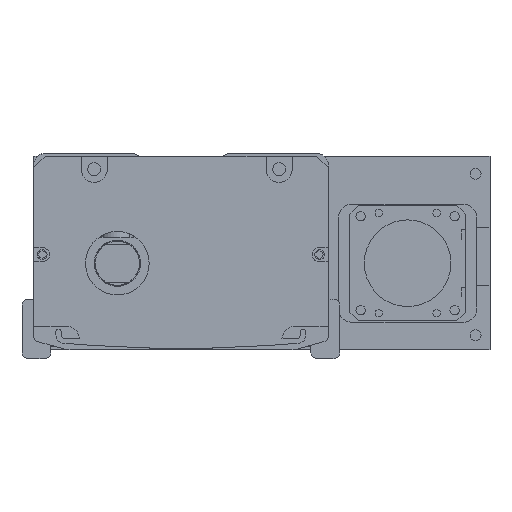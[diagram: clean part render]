
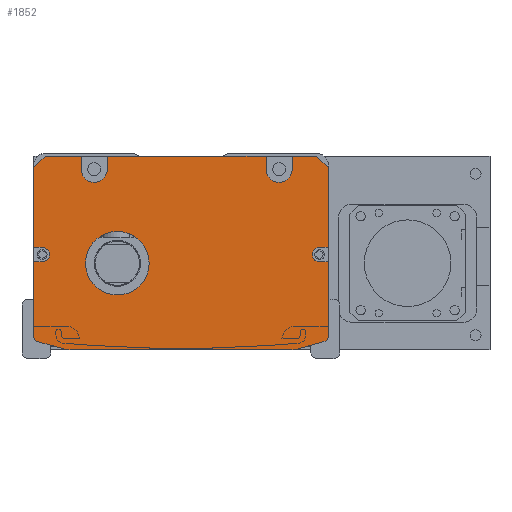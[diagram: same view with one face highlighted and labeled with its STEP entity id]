
A CAD part, front view. The second image highlights one B-rep face of the part: STEP entity #1852.
In plain terms, the highlighted planar face has unit normal (0, -1, 0).
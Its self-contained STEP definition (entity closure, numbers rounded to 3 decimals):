
#1852=ADVANCED_FACE('',(#4440,#4441),#2411,.F.);
#2411=PLANE('',#14145);
#2952=LINE('',#27134,#3751);
#2956=LINE('',#27143,#3755);
#2964=LINE('',#27170,#3763);
#2968=LINE('',#27179,#3767);
#2975=LINE('',#27195,#3774);
#2977=LINE('',#27200,#3776);
#2992=LINE('',#27243,#3791);
#2994=LINE('',#27251,#3793);
#2997=LINE('',#27255,#3796);
#3018=LINE('',#27323,#3817);
#3022=LINE('',#27332,#3821);
#3026=LINE('',#27341,#3825);
#3030=LINE('',#27350,#3829);
#3034=LINE('',#27366,#3833);
#3038=LINE('',#27372,#3837);
#3039=LINE('',#27373,#3838);
#3041=LINE('',#27389,#3840);
#3042=LINE('',#27390,#3841);
#3043=LINE('',#27391,#3842);
#3044=LINE('',#27392,#3843);
#3751=VECTOR('',#16697,1.);
#3755=VECTOR('',#16703,1.);
#3763=VECTOR('',#16725,1.);
#3767=VECTOR('',#16731,1.);
#3774=VECTOR('',#16740,1.);
#3776=VECTOR('',#16744,1.);
#3791=VECTOR('',#16783,1.);
#3793=VECTOR('',#16793,1.);
#3796=VECTOR('',#16798,1.);
#3817=VECTOR('',#16873,1.);
#3821=VECTOR('',#16879,1.);
#3825=VECTOR('',#16885,1.);
#3829=VECTOR('',#16891,1.);
#3833=VECTOR('',#16909,1.);
#3837=VECTOR('',#16913,1.);
#3838=VECTOR('',#16914,1.);
#3840=VECTOR('',#16938,1.);
#3841=VECTOR('',#16939,1.);
#3842=VECTOR('',#16940,1.);
#3843=VECTOR('',#16941,1.);
#4440=FACE_BOUND('',#5358,.T.);
#4441=FACE_BOUND('',#5359,.T.);
#5358=EDGE_LOOP('',(#7865,#7866,#7867,#7868,#7869,#7870,#7871,#7872,#7873,
#7874,#7875,#7876,#7877,#7878,#7879,#7880,#7881,#7882,#7883,#7884,#7885,
#7886,#7887,#7888,#7889,#7890,#7891,#7892));
#5359=EDGE_LOOP('',(#7893));
#7865=ORIENTED_EDGE('',*,*,#11922,.T.);
#7866=ORIENTED_EDGE('',*,*,#11799,.T.);
#7867=ORIENTED_EDGE('',*,*,#11909,.T.);
#7868=ORIENTED_EDGE('',*,*,#11826,.F.);
#7869=ORIENTED_EDGE('',*,*,#11863,.T.);
#7870=ORIENTED_EDGE('',*,*,#11828,.F.);
#7871=ORIENTED_EDGE('',*,*,#11914,.T.);
#7872=ORIENTED_EDGE('',*,*,#11815,.F.);
#7873=ORIENTED_EDGE('',*,*,#11860,.T.);
#7874=ORIENTED_EDGE('',*,*,#11819,.F.);
#7875=ORIENTED_EDGE('',*,*,#11913,.T.);
#7876=ORIENTED_EDGE('',*,*,#11803,.T.);
#7877=ORIENTED_EDGE('',*,*,#11923,.T.);
#7878=ORIENTED_EDGE('',*,*,#11893,.T.);
#7879=ORIENTED_EDGE('',*,*,#11921,.T.);
#7880=ORIENTED_EDGE('',*,*,#11889,.T.);
#7881=ORIENTED_EDGE('',*,*,#11924,.T.);
#7882=ORIENTED_EDGE('',*,*,#11846,.T.);
#7883=ORIENTED_EDGE('',*,*,#11849,.T.);
#7884=ORIENTED_EDGE('',*,*,#11852,.T.);
#7885=ORIENTED_EDGE('',*,*,#11853,.T.);
#7886=ORIENTED_EDGE('',*,*,#11809,.T.);
#7887=ORIENTED_EDGE('',*,*,#11856,.T.);
#7888=ORIENTED_EDGE('',*,*,#11811,.T.);
#7889=ORIENTED_EDGE('',*,*,#11925,.T.);
#7890=ORIENTED_EDGE('',*,*,#11901,.T.);
#7891=ORIENTED_EDGE('',*,*,#11920,.T.);
#7892=ORIENTED_EDGE('',*,*,#11897,.T.);
#7893=ORIENTED_EDGE('',*,*,#11865,.T.);
#10235=VERTEX_POINT('',#27135);
#10236=VERTEX_POINT('',#27136);
#10239=VERTEX_POINT('',#27144);
#10240=VERTEX_POINT('',#27145);
#10245=VERTEX_POINT('',#27156);
#10246=VERTEX_POINT('',#27158);
#10247=VERTEX_POINT('',#27162);
#10248=VERTEX_POINT('',#27163);
#10251=VERTEX_POINT('',#27171);
#10252=VERTEX_POINT('',#27172);
#10255=VERTEX_POINT('',#27180);
#10256=VERTEX_POINT('',#27181);
#10260=VERTEX_POINT('',#27190);
#10262=VERTEX_POINT('',#27194);
#10263=VERTEX_POINT('',#27198);
#10265=VERTEX_POINT('',#27201);
#10275=VERTEX_POINT('',#27231);
#10278=VERTEX_POINT('',#27236);
#10280=VERTEX_POINT('',#27242);
#10282=VERTEX_POINT('',#27248);
#10285=VERTEX_POINT('',#27274);
#10301=VERTEX_POINT('',#27321);
#10303=VERTEX_POINT('',#27324);
#10306=VERTEX_POINT('',#27331);
#10307=VERTEX_POINT('',#27333);
#10309=VERTEX_POINT('',#27339);
#10311=VERTEX_POINT('',#27342);
#10314=VERTEX_POINT('',#27349);
#10315=VERTEX_POINT('',#27351);
#11799=EDGE_CURVE('',#10235,#10236,#2952,.T.);
#11803=EDGE_CURVE('',#10239,#10240,#2956,.T.);
#11809=EDGE_CURVE('',#10246,#10245,#12996,.T.);
#11811=EDGE_CURVE('',#10247,#10248,#12997,.T.);
#11815=EDGE_CURVE('',#10251,#10252,#2964,.T.);
#11819=EDGE_CURVE('',#10255,#10256,#2968,.T.);
#11826=EDGE_CURVE('',#10262,#10260,#2975,.T.);
#11828=EDGE_CURVE('',#10263,#10265,#2977,.T.);
#11846=EDGE_CURVE('',#10275,#10278,#13004,.T.);
#11849=EDGE_CURVE('',#10278,#10280,#2992,.T.);
#11852=EDGE_CURVE('',#10280,#10282,#13006,.T.);
#11853=EDGE_CURVE('',#10282,#10246,#2994,.T.);
#11856=EDGE_CURVE('',#10245,#10247,#2997,.T.);
#11860=EDGE_CURVE('',#10251,#10256,#13009,.T.);
#11863=EDGE_CURVE('',#10262,#10265,#13012,.T.);
#11865=EDGE_CURVE('',#10285,#10285,#13013,.T.);
#11889=EDGE_CURVE('',#10303,#10301,#3018,.T.);
#11893=EDGE_CURVE('',#10307,#10306,#3022,.T.);
#11897=EDGE_CURVE('',#10311,#10309,#3026,.T.);
#11901=EDGE_CURVE('',#10315,#10314,#3030,.T.);
#11909=EDGE_CURVE('',#10236,#10260,#3034,.T.);
#11913=EDGE_CURVE('',#10255,#10239,#3038,.T.);
#11914=EDGE_CURVE('',#10263,#10252,#3039,.T.);
#11920=EDGE_CURVE('',#10314,#10311,#13027,.T.);
#11921=EDGE_CURVE('',#10306,#10303,#13028,.T.);
#11922=EDGE_CURVE('',#10309,#10235,#3041,.T.);
#11923=EDGE_CURVE('',#10240,#10307,#3042,.T.);
#11924=EDGE_CURVE('',#10301,#10275,#3043,.T.);
#11925=EDGE_CURVE('',#10248,#10315,#3044,.T.);
#12996=CIRCLE('',#14072,10.);
#12997=CIRCLE('',#14074,2.);
#13004=CIRCLE('',#14090,2.);
#13006=CIRCLE('',#14094,10.);
#13009=CIRCLE('',#14102,4.5);
#13012=CIRCLE('',#14107,4.5);
#13013=CIRCLE('',#14110,11.);
#13027=CIRCLE('',#14141,2.5);
#13028=CIRCLE('',#14143,2.5);
#14072=AXIS2_PLACEMENT_3D('',#27157,#16712,#16713);
#14074=AXIS2_PLACEMENT_3D('',#27161,#16717,#16718);
#14090=AXIS2_PLACEMENT_3D('',#27237,#16777,#16778);
#14094=AXIS2_PLACEMENT_3D('',#27249,#16789,#16790);
#14102=AXIS2_PLACEMENT_3D('',#27263,#16810,#16811);
#14107=AXIS2_PLACEMENT_3D('',#27269,#16820,#16821);
#14110=AXIS2_PLACEMENT_3D('',#27273,#16827,#16828);
#14141=AXIS2_PLACEMENT_3D('',#27385,#16930,#16931);
#14143=AXIS2_PLACEMENT_3D('',#27387,#16934,#16935);
#14145=AXIS2_PLACEMENT_3D('',#27393,#16942,#16943);
#16697=DIRECTION('',(-0.707,0.,0.707));
#16703=DIRECTION('',(-0.707,0.,-0.707));
#16712=DIRECTION('',(0.,-1.,0.));
#16713=DIRECTION('',(0.,0.,-1.));
#16717=DIRECTION('',(0.,-1.,0.));
#16718=DIRECTION('',(0.,0.,-1.));
#16725=DIRECTION('',(0.,0.,1.));
#16731=DIRECTION('',(0.,0.,-1.));
#16740=DIRECTION('',(0.,0.,1.));
#16744=DIRECTION('',(0.,0.,-1.));
#16777=DIRECTION('',(0.,-1.,0.));
#16778=DIRECTION('',(0.,0.,1.));
#16783=DIRECTION('',(0.963,0.,-0.269));
#16789=DIRECTION('',(0.,-1.,0.));
#16790=DIRECTION('',(0.,0.,1.));
#16793=DIRECTION('',(1.,0.,0.));
#16798=DIRECTION('',(0.963,0.,0.269));
#16810=DIRECTION('',(0.,1.,0.));
#16811=DIRECTION('',(0.,0.,1.));
#16820=DIRECTION('',(0.,1.,0.));
#16821=DIRECTION('',(0.,0.,1.));
#16827=DIRECTION('',(0.,1.,0.));
#16828=DIRECTION('',(0.,0.,1.));
#16873=DIRECTION('',(-1.,0.,0.));
#16879=DIRECTION('',(1.,0.,0.));
#16885=DIRECTION('',(1.,0.,0.));
#16891=DIRECTION('',(-1.,0.,0.));
#16909=DIRECTION('',(-1.,0.,0.));
#16913=DIRECTION('',(-1.,0.,0.));
#16914=DIRECTION('',(-1.,0.,0.));
#16930=DIRECTION('',(0.,1.,0.));
#16931=DIRECTION('',(0.,0.,1.));
#16934=DIRECTION('',(0.,1.,0.));
#16935=DIRECTION('',(0.,0.,1.));
#16938=DIRECTION('',(0.,0.,1.));
#16939=DIRECTION('',(0.,0.,-1.));
#16940=DIRECTION('',(0.,0.,-1.));
#16941=DIRECTION('',(0.,0.,1.));
#16942=DIRECTION('',(0.,1.,0.));
#16943=DIRECTION('',(-1.,0.,0.));
#27134=CARTESIAN_POINT('',(43.808,-717.5,-1.));
#27135=CARTESIAN_POINT('',(47.808,-717.5,-5.));
#27136=CARTESIAN_POINT('',(43.808,-717.5,-1.));
#27143=CARTESIAN_POINT('',(-54.192,-717.5,-5.));
#27144=CARTESIAN_POINT('',(-50.192,-717.5,-1.));
#27145=CARTESIAN_POINT('',(-54.192,-717.5,-5.));
#27156=CARTESIAN_POINT('',(37.424,-717.5,-67.631));
#27157=CARTESIAN_POINT('',(34.733,-717.5,-58.));
#27158=CARTESIAN_POINT('',(34.733,-717.5,-68.));
#27161=CARTESIAN_POINT('',(45.808,-717.5,-63.212));
#27162=CARTESIAN_POINT('',(46.346,-717.5,-65.138));
#27163=CARTESIAN_POINT('',(47.808,-717.5,-63.212));
#27170=CARTESIAN_POINT('',(-28.692,-717.5,-3.5));
#27171=CARTESIAN_POINT('',(-28.692,-717.5,-5.5));
#27172=CARTESIAN_POINT('',(-28.692,-717.5,-1.));
#27179=CARTESIAN_POINT('',(-37.692,-717.5,-1.));
#27180=CARTESIAN_POINT('',(-37.692,-717.5,-1.));
#27181=CARTESIAN_POINT('',(-37.692,-717.5,-5.5));
#27190=CARTESIAN_POINT('',(35.308,-717.5,-1.));
#27194=CARTESIAN_POINT('',(35.308,-717.5,-5.5));
#27195=CARTESIAN_POINT('',(35.308,-717.5,-1.));
#27198=CARTESIAN_POINT('',(26.308,-717.5,-1.));
#27200=CARTESIAN_POINT('',(26.308,-717.5,-1.));
#27201=CARTESIAN_POINT('',(26.308,-717.5,-5.5));
#27231=CARTESIAN_POINT('',(-54.192,-717.5,-63.212));
#27236=CARTESIAN_POINT('',(-52.731,-717.5,-65.138));
#27237=CARTESIAN_POINT('',(-52.192,-717.5,-63.212));
#27242=CARTESIAN_POINT('',(-43.809,-717.5,-67.631));
#27243=CARTESIAN_POINT('',(-55.807,-717.5,-64.279));
#27248=CARTESIAN_POINT('',(-41.118,-717.5,-68.));
#27249=CARTESIAN_POINT('',(-41.118,-717.5,-58.));
#27251=CARTESIAN_POINT('',(-54.692,-717.5,-68.));
#27255=CARTESIAN_POINT('',(49.422,-717.5,-64.279));
#27263=CARTESIAN_POINT('',(-33.192,-717.5,-5.5));
#27269=CARTESIAN_POINT('',(30.808,-717.5,-5.5));
#27273=CARTESIAN_POINT('',(-25.192,-717.5,-38.));
#27274=CARTESIAN_POINT('',(-25.192,-717.5,-27.));
#27321=CARTESIAN_POINT('',(-54.192,-717.5,-37.5));
#27323=CARTESIAN_POINT('',(-3.192,-717.5,-37.5));
#27324=CARTESIAN_POINT('',(-51.192,-717.5,-37.5));
#27331=CARTESIAN_POINT('',(-51.192,-717.5,-32.5));
#27332=CARTESIAN_POINT('',(-3.192,-717.5,-32.5));
#27333=CARTESIAN_POINT('',(-54.192,-717.5,-32.5));
#27339=CARTESIAN_POINT('',(47.808,-717.5,-32.5));
#27341=CARTESIAN_POINT('',(-3.192,-717.5,-32.5));
#27342=CARTESIAN_POINT('',(44.808,-717.5,-32.5));
#27349=CARTESIAN_POINT('',(44.808,-717.5,-37.5));
#27350=CARTESIAN_POINT('',(-3.192,-717.5,-37.5));
#27351=CARTESIAN_POINT('',(47.808,-717.5,-37.5));
#27366=CARTESIAN_POINT('',(-3.192,-717.5,-1.));
#27372=CARTESIAN_POINT('',(-54.192,-717.5,-1.));
#27373=CARTESIAN_POINT('',(-54.192,-717.5,-1.));
#27385=CARTESIAN_POINT('',(44.808,-717.5,-35.));
#27387=CARTESIAN_POINT('',(-51.192,-717.5,-35.));
#27389=CARTESIAN_POINT('',(47.808,-717.5,-1.));
#27390=CARTESIAN_POINT('',(-54.192,-717.5,-62.));
#27391=CARTESIAN_POINT('',(-54.192,-717.5,-62.));
#27392=CARTESIAN_POINT('',(47.808,-717.5,-1.));
#27393=CARTESIAN_POINT('',(-3.192,-717.5,-1.));
